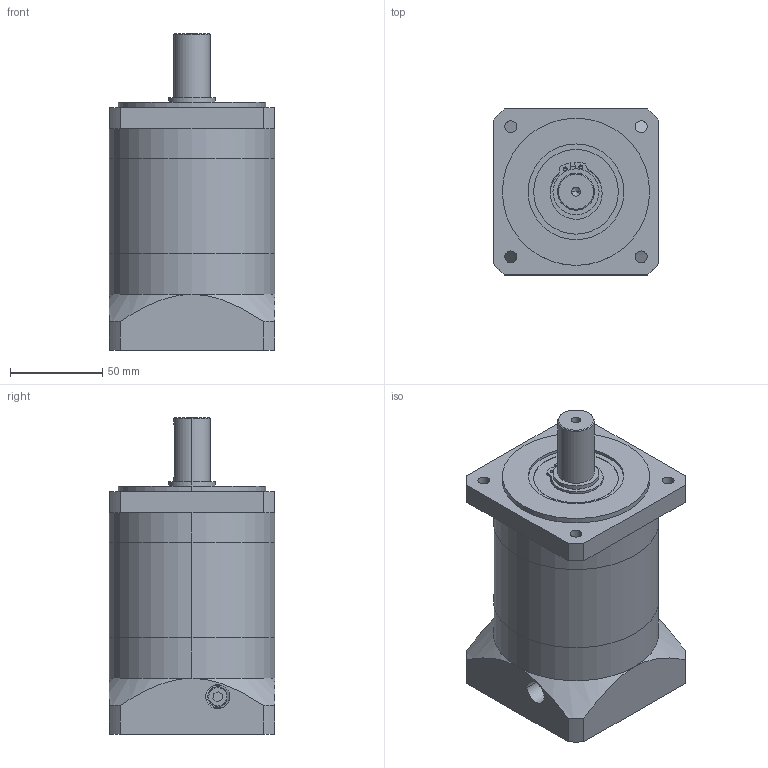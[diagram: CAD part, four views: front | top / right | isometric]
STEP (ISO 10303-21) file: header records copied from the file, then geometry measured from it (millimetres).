
FILE_DESCRIPTION (( 'STEP AP203' ), '1' );
FILE_NAME ('SPLF90-L2MA.STEP', '2021-07-19T02:03:17', ( '' ), ( '' ), 'SwSTEP 2.0', 'SolidWorks 2016', '' );
FILE_SCHEMA (( 'CONFIG_CONTROL_DESIGN' ));
Length unit declared in the file: millimetre
Products named in the file (9): 90怀堤楊擘; SPLF90-L2MA; 90输入法兰; SPLF90-输入端MA; GB／T70．1-2000内六角圆柱头螺钉M6×20; 俋縐銅25; 90齿圈2; GB／T276-94深沟球轴承6205-RS; 90输入轴
Assembly tree (13 placements, depth 3):
  SPLF90-L2MA
    90怀堤楊擘
    90齿圈2
    SPLF90-输入端MA
      90输入法兰
      90输入轴
      GB／T276-94深沟球轴承6205-RS
      GB／T70．1-2000内六角圆柱头螺钉M6×20  x6
    俋縐銅25
Bounding box: 90 x 90 x 172.2 mm (x, y, z)
Volume: 815932.7 mm3; surface area: 134772.9 mm2
Topology: 12 solids, 12 shells, 544 faces, 1420 edges, 903 vertices
Faces by surface type: cylinder 187, plane 145, torus 84, sphere 72, cone 56
Entity records: 18634 total; most frequent: CARTESIAN_POINT 6285, DIRECTION 2425, ORIENTED_EDGE 2380, EDGE_CURVE 1190, AXIS2_PLACEMENT_3D 1067, VERTEX_POINT 773, CIRCLE 606, EDGE_LOOP 529
